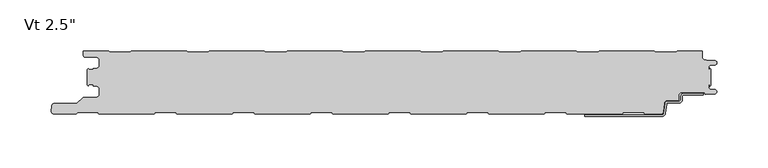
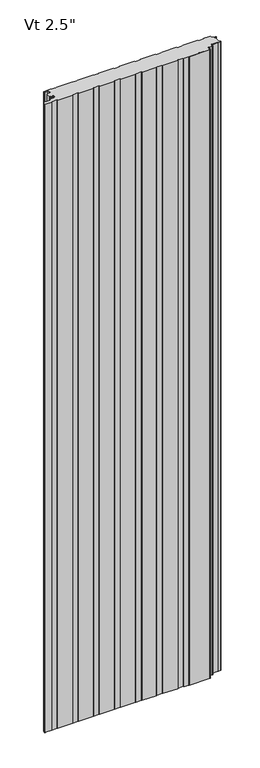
"""IFC4 building model written with IfcOpenShell, lengths in millimetres: plate geometry."""

from ifc_helpers import new_model, si_unit, point, frame, frame_2d, origin, origin_with_axes, place, context, project, spatial, polyline, circle_curve, trimmed, segment, composite_curve, outline, extrude, source, transform, mapped, element, save
from ifc_brep_helpers import plane_surface, cylinder_surface, revolved_surface, advanced_brep


def plate_16957b23(model_context):
    return source(origin(), model_context, "Body", "SolidModel", [
        advanced_brep(
        [(278.4543181, -42.4008679, 0.0), (297.1995181, -42.4008679, 0.0), (297.1995181, -43.9248679, 0.0), (278.4543181, -43.9248679, 0.0), (276.9303181, -45.4488679, 0.0), (276.9303181, -48.5476679, 0.0), (273.4759181, -52.0020679, 0.0), (262.2633607, -52.0020679, 0.0), (261.5042604, -52.6976552, 0.0), (260.3094328, -62.2416507, 0.0), (257.2730313, -65.024, 0.0), (181.7057181, -65.0360323, 0.0), (181.7057181, -63.5, 0.0), (257.2730313, -63.5, 0.0), (258.7912321, -62.1088254, 0.0), (259.9860597, -52.5648299, 0.0), (262.2633607, -50.4780679, 0.0), (273.4759181, -50.4780679, 0.0), (275.4063181, -48.5476679, 0.0), (275.4063181, -45.4488679, 0.0), (278.4543181, -42.4008679, 2400.0), (275.4063181, -45.4488679, 2400.0), (275.4063181, -48.5476679, 2400.0), (273.4759181, -50.4780679, 2400.0), (262.2633607, -50.4780679, 2400.0), (259.9860597, -52.5648299, 2400.0), (258.7912321, -62.1088254, 2400.0), (257.2730313, -63.5, 2400.0), (181.7057181, -63.5, 2400.0), (181.7057181, -65.0360323, 2400.0), (257.2730313, -65.0360323, 2400.0), (260.3094328, -62.2416507, 2400.0), (261.5042604, -52.6976552, 2400.0), (262.2633607, -52.0020679, 2400.0), (273.4759181, -52.0020679, 2400.0), (276.9303181, -48.5476679, 2400.0), (276.9303181, -45.4488679, 2400.0), (278.4543181, -43.9248679, 2400.0), (297.1995181, -43.9248679, 2400.0), (297.1995181, -42.4008679, 2400.0)],
        [
            (0, 1),
            (1, 2),
            (2, 3),
            (3, 4, circle_curve(frame((278.4543181, -45.4488679, 0.0), z_axis=(0.0, 0.0, 1.0), x_axis=(0.0, 1.0, 0.0)), 1.524)),
            (4, 5),
            (5, 6, circle_curve(frame((273.4759181, -48.5476679, 0.0), z_axis=(0.0, 0.0, -1.0), x_axis=(0.0, 1.0, 0.0)), 3.4544)),
            (6, 7),
            (7, 8, circle_curve(frame((262.2633607, -52.7640679, 0.0), z_axis=(0.0, 0.0, 1.0), x_axis=(0.0, 1.0, 0.0)), 0.762)),
            (8, 9),
            (9, 10, circle_curve(frame((257.2730313, -61.976, 0.0), z_axis=(0.0, 0.0, -1.0), x_axis=(0.0, 1.0, 0.0)), 3.048)),
            (10, 11),
            (11, 12),
            (12, 13),
            (13, 14, circle_curve(frame((257.2730313, -61.976, 0.0), z_axis=(0.0, 0.0, 1.0), x_axis=(0.0, 1.0, 0.0)), 1.524)),
            (14, 15),
            (15, 16, circle_curve(frame((262.2633607, -52.7640679, 0.0), z_axis=(0.0, 0.0, -1.0), x_axis=(0.0, 1.0, 0.0)), 2.286)),
            (16, 17),
            (17, 18, circle_curve(frame((273.4759181, -48.5476679, 0.0), z_axis=(0.0, 0.0, 1.0), x_axis=(0.0, 1.0, 0.0)), 1.9304)),
            (18, 19),
            (19, 0, circle_curve(frame((278.4543181, -45.4488679, 0.0), z_axis=(0.0, 0.0, -1.0), x_axis=(0.0, 1.0, 0.0)), 3.048)),
            (20, 21, circle_curve(frame((278.4543181, -45.4488679, 2400.0), z_axis=(0.0, 0.0, 1.0), x_axis=(0.0, 1.0, 0.0)), 3.048)),
            (21, 22),
            (22, 23, circle_curve(frame((273.4759181, -48.5476679, 2400.0), z_axis=(0.0, 0.0, -1.0), x_axis=(0.0, 1.0, 0.0)), 1.9304)),
            (23, 24),
            (24, 25, circle_curve(frame((262.2633607, -52.7640679, 2400.0), z_axis=(0.0, 0.0, 1.0), x_axis=(0.0, 1.0, 0.0)), 2.286)),
            (25, 26),
            (26, 27, circle_curve(frame((257.2730313, -61.976, 2400.0), z_axis=(0.0, 0.0, -1.0), x_axis=(0.0, 1.0, 0.0)), 1.524)),
            (27, 28),
            (28, 29),
            (29, 30),
            (30, 31, circle_curve(frame((257.2730313, -61.976, 2400.0), z_axis=(0.0, 0.0, 1.0), x_axis=(0.0, 1.0, 0.0)), 3.048)),
            (31, 32),
            (32, 33, circle_curve(frame((262.2633607, -52.7640679, 2400.0), z_axis=(0.0, 0.0, -1.0), x_axis=(0.0, 1.0, 0.0)), 0.762)),
            (33, 34),
            (34, 35, circle_curve(frame((273.4759181, -48.5476679, 2400.0), z_axis=(0.0, 0.0, 1.0), x_axis=(0.0, 1.0, 0.0)), 3.4544)),
            (35, 36),
            (36, 37, circle_curve(frame((278.4543181, -45.4488679, 2400.0), z_axis=(0.0, 0.0, -1.0), x_axis=(0.0, 1.0, 0.0)), 1.524)),
            (37, 38),
            (38, 39),
            (39, 20),
            (2, 38),
            (37, 3),
            (15, 25),
            (24, 16),
            (7, 33),
            (32, 8),
            (5, 35),
            (34, 6),
            (1, 39),
            (36, 4),
            (9, 31),
            (30, 10),
            (13, 27),
            (26, 14),
            (0, 20),
            (12, 28),
            (29, 11),
            (23, 17),
            (18, 22),
            (21, 19),
        ],
        [
            plane_surface(frame((297.1995181, -63.5, 0.0), z_axis=(0.0, 0.0, -1.0), x_axis=(-1.0, 0.0, 0.0))),
            plane_surface(frame((297.1995181, -63.5, 2400.0), z_axis=(0.0, 0.0, 1.0), x_axis=(-1.0, 0.0, 0.0))),
            plane_surface(frame((278.4543181, -43.9248679, 0.0), z_axis=(0.0, -1.0, 0.0), x_axis=(0.0, 0.0, 1.0))),
            cylinder_surface(frame((262.2633607, -52.7640679, 0.0), z_axis=(0.0, 0.0, -1.0), x_axis=(0.0, 1.0, 0.0)), 2.286),
            revolved_surface(polyline([(262.2633607, -52.0020679, 2400.0), (262.2633607, -52.0020679, 0.0)]), (262.2633607, -52.7640679, 0.0), (0.0, 0.0, 1.0)),
            cylinder_surface(frame((273.4759181, -48.5476679, 0.0), z_axis=(0.0, 0.0, -1.0), x_axis=(0.0, 1.0, 0.0)), 3.4544),
            plane_surface(frame((297.1995181, -43.9248679, 0.0), z_axis=(1.0, 0.0, 0.0), x_axis=(0.0, 0.0, 1.0))),
            revolved_surface(polyline([(278.4543181, -43.9248679, 2400.0), (278.4543181, -43.9248679, 0.0)]), (278.4543181, -45.4488679, 0.0), (0.0, 0.0, 1.0)),
            cylinder_surface(frame((257.2730313, -61.976, 0.0), z_axis=(0.0, 0.0, -1.0), x_axis=(0.0, 1.0, 0.0)), 3.048),
            revolved_surface(polyline([(257.2730313, -60.452, 2400.0), (257.2730313, -60.452, 0.0)]), (257.2730313, -61.976, 0.0), (0.0, 0.0, 1.0)),
            plane_surface(frame((297.1995181, -42.4008679, 0.0), z_axis=(0.0, 1.0, 0.0), x_axis=(0.0, 0.0, 1.0))),
            plane_surface(frame((259.9860597, -52.5648299, 0.0), z_axis=(-0.992254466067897, 0.12422187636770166, 0.0), x_axis=(0.0, 0.0, 1.0))),
            plane_surface(frame((257.2730313, -63.5, 0.0), z_axis=(0.0, 1.0, 0.0), x_axis=(0.0, 0.0, 1.0))),
            plane_surface(frame((260.3094328, -62.2416507, 0.0), z_axis=(0.9922544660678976, -0.12422187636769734, 0.0), x_axis=(0.0, 0.0, 1.0))),
            plane_surface(frame((276.9303181, -48.5476679, 0.0), z_axis=(1.0, 0.0, 0.0), x_axis=(0.0, 0.0, 1.0))),
            plane_surface(frame((181.7057181, -65.0360323, 0.0), z_axis=(0.0, -1.0, 0.0), x_axis=(0.0, 0.0, 1.0))),
            plane_surface(frame((181.7057181, -63.5, 0.0), z_axis=(-1.0, 0.0, 0.0), x_axis=(0.0, 0.0, 1.0))),
            plane_surface(frame((273.4759181, -50.4780679, 0.0), z_axis=(0.0, 1.0, 0.0), x_axis=(0.0, 0.0, 1.0))),
            plane_surface(frame((275.4063181, -45.4488679, 0.0), z_axis=(-1.0, 0.0, 0.0), x_axis=(0.0, 0.0, 1.0))),
            plane_surface(frame((262.2633607, -52.0020679, 0.0), z_axis=(0.0, -1.0, 0.0), x_axis=(0.0, 0.0, 1.0))),
            revolved_surface(polyline([(273.4759181, -46.6172679, 2400.0), (273.4759181, -46.6172679, 0.0)]), (273.4759181, -48.5476679, 0.0), (0.0, 0.0, 1.0)),
            cylinder_surface(frame((278.4543181, -45.4488679, 0.0), z_axis=(0.0, 0.0, -1.0), x_axis=(0.0, 1.0, 0.0)), 3.048),
        ],
        [
            (0, [[1, 2, 3, 4, 5, 6, 7, 8, 9, 10, 11, 12, 13, 14, 15, 16, 17, 18, 19, 20]]),
            (1, [[21, 22, 23, 24, 25, 26, 27, 28, 29, 30, 31, 32, 33, 34, 35, 36, 37, 38, 39, 40]]),
            (2, [[41, -38, 42, -3]]),
            (3, [[43, -25, 44, -16]]),
            (4, [[45, -33, 46, -8]]),
            (5, [[47, -35, 48, -6]]),
            (6, [[49, -39, -41, -2]]),
            (7, [[-42, -37, 50, -4]]),
            (8, [[51, -31, 52, -10]]),
            (9, [[53, -27, 54, -14]]),
            (10, [[55, -40, -49, -1]]),
            (11, [[-54, -26, -43, -15]]),
            (12, [[56, -28, -53, -13]]),
            (13, [[-46, -32, -51, -9]]),
            (14, [[-50, -36, -47, -5]]),
            (15, [[-52, -30, 57, -11]]),
            (16, [[-57, -29, -56, -12]]),
            (17, [[-44, -24, 58, -17]]),
            (18, [[59, -22, 60, -19]]),
            (19, [[-48, -34, -45, -7]]),
            (20, [[-58, -23, -59, -18]]),
            (21, [[-60, -21, -55, -20]]),
        ],
    ),
        extrude(outline(composite_curve([segment(polyline([(-303.7683001, -35.1760161), (-304.8, -34.1443162), (-304.8, -19.0328308), (-303.7686883, -18.0015192)]), True, "CONTINUOUS"), segment(trimmed(circle_curve(frame_2d((-302.7686911, -18.0015133)), 0.9999972), [point((-303.7686883, -18.0015192))], [point((-302.7686911, -19.0015105))], True, "CARTESIAN"), True, "CONTINUOUS"), segment(polyline([(-302.7686911, -19.0015105), (-298.7684875, -19.0015105), (-298.7684875, -18.0015159), (-296.0762777, -18.0015159)]), True, "CONTINUOUS"), segment(trimmed(circle_curve(frame_2d((-296.0762777, -14.7015202)), 3.2999957), [point((-296.0762777, -18.0015159))], [point((-292.776282, -14.7015202))], True, "CARTESIAN"), True, "CONTINUOUS"), segment(polyline([(-292.776282, -14.7015202), (-292.776282, -10.301529)]), True, "CONTINUOUS"), segment(trimmed(circle_curve(frame_2d((-296.0762778, -10.301529)), 3.2999959), [point((-292.776282, -10.301529))], [point((-296.0762778, -7.0015331))], True, "CARTESIAN"), True, "CONTINUOUS"), segment(polyline([(-296.0762778, -7.0015331), (-306.4962564, -7.0015331)]), True, "CONTINUOUS"), segment(trimmed(circle_curve(frame_2d((-306.4962564, -5.2315389)), 1.7699942), [point((-306.4962564, -7.0015331))], [point((-308.2662506, -5.2315389))], False, "CARTESIAN"), True, "CONTINUOUS"), segment(polyline([(-308.2662506, -5.2315389), (-308.2662506, -0.9999916), (-283.765974, -0.9999916), (-282.3803313, -2.2002307), (-263.005165, -2.2002307), (-261.6195321, -1.0), (-207.5661167, -1.0), (-206.1804837, -2.2002307), (-186.8053174, -2.2002307), (-185.4196845, -1.0), (-131.3662691, -1.0), (-129.9806361, -2.2002307), (-110.6054698, -2.2002307), (-109.2198369, -1.0), (-55.1664215, -1.0), (-53.7807885, -2.2002307), (-34.4056222, -2.2002307), (-33.0199893, -1.0), (21.0334261, -1.0), (22.4190591, -2.2002307), (41.7942254, -2.2002307), (43.1798583, -1.0), (97.2332737, -1.0), (98.6189067, -2.2002307), (117.994073, -2.2002307), (119.3797059, -1.0), (173.4331213, -1.0), (174.8187543, -2.2002307), (194.1939206, -2.2002307), (195.5795535, -1.0), (249.6329689, -1.0), (251.0186019, -2.2002307), (270.3937682, -2.2002307), (271.7794011, -1.0), (296.2787013, -1.0), (296.2787013, -6.0026007)]), True, "CONTINUOUS"), segment(trimmed(circle_curve(frame_2d((300.2939817, -5.9867338)), 4.0153117), [point((296.2787013, -6.0026007))], [point((300.1016499, -9.9974365))], True, "CARTESIAN"), True, "CONTINUOUS"), segment(polyline([(300.1016499, -9.9974365), (308.5931719, -10.4046442)]), True, "CONTINUOUS"), segment(trimmed(circle_curve(frame_2d((308.4781032, -12.5552871)), 2.153719), [point((308.5931719, -10.4046442))], [point((308.5921924, -14.7059822))], False, "CARTESIAN"), True, "CONTINUOUS"), segment(polyline([(308.5921924, -14.7059822), (304.4513685, -14.9256429)]), True, "CONTINUOUS"), segment(trimmed(circle_curve(frame_2d((304.5186869, -16.6743462)), 1.7499985), [point((304.4513685, -14.9256429))], [point((302.7686884, -16.6743462))], True, "CARTESIAN"), True, "CONTINUOUS"), segment(polyline([(302.7686884, -16.6743462), (302.7686884, -19.0015288), (303.7686884, -19.0015288), (303.7686884, -17.5871409), (304.8, -18.6184525), (304.8, -34.5586945), (303.7686884, -35.5900061), (303.7686884, -34.0025061), (302.7686884, -34.0025061), (302.7686884, -36.7870527)]), True, "CONTINUOUS"), segment(trimmed(circle_curve(frame_2d((304.6099653, -36.7434917)), 1.8417922), [point((302.7686884, -36.7870527))], [point((304.4977997, -38.5818653))], True, "CARTESIAN"), True, "CONTINUOUS"), segment(polyline([(304.4977997, -38.5818653), (308.5037148, -38.8262802)]), True, "CONTINUOUS"), segment(trimmed(circle_curve(frame_2d((308.4236622, -40.9266291)), 2.1018739), [point((308.5037148, -38.8262802))], [point((308.506811, -43.0268578))], False, "CARTESIAN"), True, "CONTINUOUS"), segment(polyline([(308.506811, -43.0268578), (299.5334028, -43.3821181), (298.3895515, -41.4012703), (277.2091924, -41.4012703)]), True, "CONTINUOUS"), segment(trimmed(circle_curve(frame_2d((277.2091924, -45.4007233)), 3.9994529), [point((277.2091924, -41.4012703))], [point((273.2097394, -45.4007233))], True, "CARTESIAN"), True, "CONTINUOUS"), segment(polyline([(273.2097394, -45.4007233), (273.2097394, -48.5443786)]), True, "CONTINUOUS"), segment(trimmed(circle_curve(frame_2d((272.2583308, -48.5443786)), 0.9514087), [point((273.2097394, -48.5443786))], [point((272.2583308, -49.4957873))], False, "CARTESIAN"), True, "CONTINUOUS"), segment(polyline([(272.2583308, -49.4957873), (262.1653654, -49.4957873)]), True, "CONTINUOUS"), segment(trimmed(circle_curve(frame_2d((262.0396267, -52.5231732)), 3.0299959), [point((262.1653654, -49.4957873))], [point((259.021161, -52.2590902))], True, "CARTESIAN"), True, "CONTINUOUS"), segment(polyline([(259.021161, -52.2590902), (258.2671075, -60.7178029)]), True, "CONTINUOUS"), segment(trimmed(circle_curve(frame_2d((256.3156233, -60.5461194)), 1.9590216), [point((258.2671075, -60.7178029))], [point((256.3156233, -62.5051411))], False, "CARTESIAN"), True, "CONTINUOUS"), segment(polyline([(256.3156233, -62.5051411), (240.2456965, -62.5051411), (239.0403247, -61.2997693), (219.3209122, -61.2997693), (218.1206815, -62.5), (164.0405497, -62.5), (162.840319, -61.2997693), (143.1209065, -61.2997693), (141.9206758, -62.5), (87.840544, -62.5), (86.6403133, -61.2997693), (66.9209008, -61.2997693), (65.7206701, -62.5), (11.6405383, -62.5), (10.4403076, -61.2997693), (-9.2791049, -61.2997693), (-10.4793356, -62.5), (-64.5594674, -62.5), (-65.7596981, -61.2997693), (-85.4791106, -61.2997693), (-86.6793413, -62.5), (-140.7594731, -62.5), (-141.9597038, -61.2997693), (-161.6791163, -61.2997693), (-162.879347, -62.5), (-216.9594787, -62.5), (-218.1597095, -61.2997693), (-237.879122, -61.2997693), (-239.0793527, -62.5), (-293.1594844, -62.5), (-294.3597151, -61.2997693), (-314.0791277, -61.2997693), (-315.2790962, -62.4997378), (-337.2521176, -62.4997378)]), True, "CONTINUOUS"), segment(trimmed(circle_curve(frame_2d((-337.2521176, -59.9294985)), 2.5702393), [point((-337.2521176, -62.4997378))], [point((-339.8125699, -59.7054129))], False, "CARTESIAN"), True, "CONTINUOUS"), segment(polyline([(-339.8125699, -59.7054129), (-339.3765709, -54.723592)]), True, "CONTINUOUS"), segment(trimmed(circle_curve(frame_2d((-336.7198392, -55.2049826)), 2.6999926), [point((-339.3765709, -54.723592))], [point((-336.7198392, -52.50499))], False, "CARTESIAN"), True, "CONTINUOUS"), segment(polyline([(-336.7198392, -52.50499), (-314.6247096, -52.50499), (-309.1226385, -47.0029189)]), True, "CONTINUOUS"), segment(trimmed(circle_curve(frame_2d((-307.9205608, -48.2049966)), 1.6999946), [point((-309.1226385, -47.0029189))], [point((-307.9205608, -46.505002))], False, "CARTESIAN"), True, "CONTINUOUS"), segment(polyline([(-307.9205608, -46.505002), (-296.1096717, -46.505002)]), True, "CONTINUOUS"), segment(trimmed(circle_curve(frame_2d((-296.1096717, -43.1550067)), 3.3499953), [point((-296.1096717, -46.505002))], [point((-292.7596764, -43.1550067))], True, "CARTESIAN"), True, "CONTINUOUS"), segment(polyline([(-292.7596764, -43.1550067), (-292.7596764, -38.7550155)]), True, "CONTINUOUS"), segment(trimmed(circle_curve(frame_2d((-296.1096717, -38.7550155)), 3.3499953), [point((-292.7596764, -38.7550155))], [point((-296.1096717, -35.4050202))], True, "CARTESIAN"), True, "CONTINUOUS"), segment(polyline([(-296.1096717, -35.4050202), (-298.8087827, -35.4050202), (-298.8087827, -34.0065413), (-302.5671761, -34.0065413)]), True, "CONTINUOUS"), segment(trimmed(circle_curve(frame_2d((-302.5686908, -35.206538)), 1.1999976), [point((-302.5671761, -34.0065413))], [point((-303.7683001, -35.1760161))], True, "CARTESIAN"), True, "CONTINUOUS")], self_intersect=False)), origin_with_axes(), (0.0, 0.0, 1.0), 2400.0),
    ])


if __name__ == "__main__":
    model = new_model("IFC4")
    model_context = context("Model", 3, world=origin())
    ifc_project = project(units=[si_unit("LENGTHUNIT", "METRE", prefix="MILLI")], contexts=[model_context])
    site = spatial("IfcSite", under=ifc_project)
    building = spatial("IfcBuilding", under=site)
    placement = place(None, origin())
    plate_shape = plate_16957b23(model_context)
    element("IfcPlate", 1, ObjectType="KIP-24-Karrier-KP-R19-CP-Vt-SL3-8in_SL : Vt 2.5\"", at=placement, inside=building, context=model_context, shape_type="MappedRepresentation", body=[
        mapped(plate_shape, transform((0.0, 0.0, 0.0), x_axis=(1.0, 0.0, 0.0), y_axis=(0.0, 1.0, 0.0), z_axis=(0.0, 0.0, 1.0))),
    ])
    save(model, "model.ifc")
